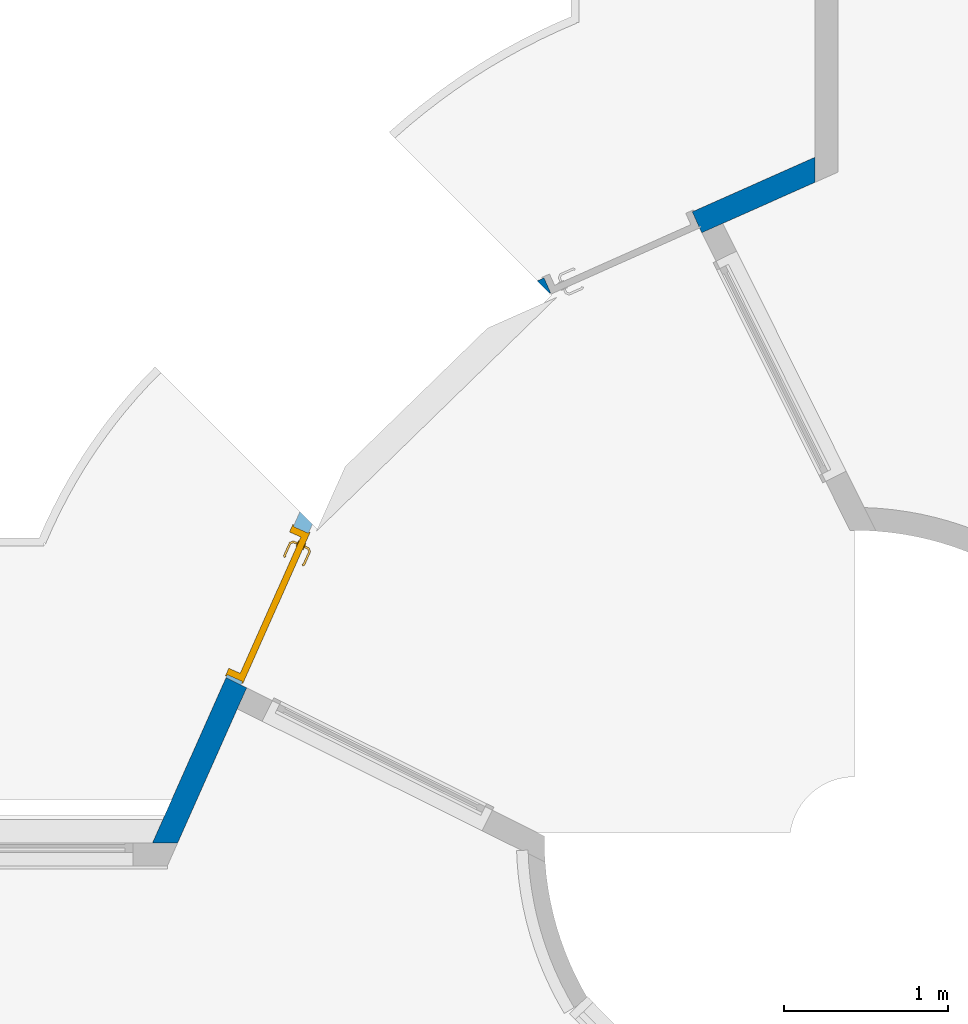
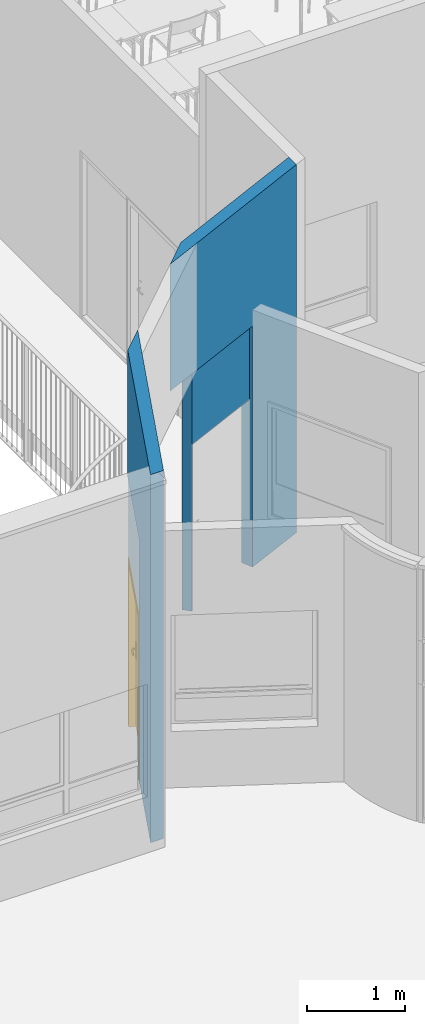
# One storey, part 35 of 44: 3 walls, 1 door, 2 openings, plus 1 element that does not belong to this part.
"""IFC2X3 building model written with IfcOpenShell, lengths in centimetres."""

from ifc_helpers import new_model, entity, si_unit, converted_unit, derived_unit, direction, frame, frame_2d, origin, place, context, subcontext, project, spatial, polyline, rectangle, outline, extrude, faceted_brep, source, transform, mapped, material, material_list, layer, layer_set, layer_usage, type_object, type_shapes, element, fill, save


model = new_model("IFC2X3")

# Units and contexts
model_context = context("Model", 3, precision=0.001, world=origin(), true_north=direction((6.12303176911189e-17, 1.0)))
body_context = subcontext(model_context, "Body", "Model", "MODEL_VIEW")
ifc_project = project(units=[si_unit("LENGTHUNIT", "METRE", prefix="CENTI"), si_unit("AREAUNIT", "SQUARE_METRE"), si_unit("VOLUMEUNIT", "CUBIC_METRE"), converted_unit("PLANEANGLEUNIT", "DEGREE", entity("IfcRatioMeasure", 0.0174532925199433), si_unit("PLANEANGLEUNIT", "RADIAN"), dimensions=[0, 0, 0, 0, 0, 0, 0]), si_unit("MASSUNIT", "GRAM", prefix="KILO"), si_unit("TIMEUNIT", "SECOND"), si_unit("FREQUENCYUNIT", "HERTZ"), si_unit("THERMODYNAMICTEMPERATUREUNIT", "DEGREE_CELSIUS"), derived_unit("THERMALTRANSMITTANCEUNIT", [(si_unit("MASSUNIT", "GRAM", prefix="KILO"), 1), (si_unit("THERMODYNAMICTEMPERATUREUNIT", "KELVIN"), -1), (si_unit("TIMEUNIT", "SECOND"), -3)]), derived_unit("VOLUMETRICFLOWRATEUNIT", [(si_unit("LENGTHUNIT", "METRE"), 3), (si_unit("TIMEUNIT", "SECOND"), -1)]), si_unit("ELECTRICCURRENTUNIT", "AMPERE"), si_unit("ELECTRICVOLTAGEUNIT", "VOLT"), si_unit("POWERUNIT", "WATT"), si_unit("FORCEUNIT", "NEWTON", prefix="KILO"), si_unit("ILLUMINANCEUNIT", "LUX"), si_unit("LUMINOUSFLUXUNIT", "LUMEN"), si_unit("LUMINOUSINTENSITYUNIT", "CANDELA"), derived_unit("USERDEFINED", [(si_unit("MASSUNIT", "GRAM", prefix="KILO"), -1), (si_unit("LENGTHUNIT", "METRE"), -2), (si_unit("TIMEUNIT", "SECOND"), 3), (si_unit("LUMINOUSFLUXUNIT", "LUMEN"), 1)]), derived_unit("LINEARVELOCITYUNIT", [(si_unit("LENGTHUNIT", "METRE"), 1), (si_unit("TIMEUNIT", "SECOND"), -1)]), si_unit("PRESSUREUNIT", "PASCAL"), derived_unit("USERDEFINED", [(si_unit("LENGTHUNIT", "METRE"), -2), (si_unit("MASSUNIT", "GRAM", prefix="KILO"), 1), (si_unit("TIMEUNIT", "SECOND"), -2)])], contexts=[model_context])

# Site, building, storey
site_placement = place(None, frame((8.62739174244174, -249.285249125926, 0.0)))
site = spatial("IfcSite", under=ifc_project, at=site_placement, Name="Default", CompositionType="ELEMENT")
building_placement = place(site_placement, origin())
building = spatial("IfcBuilding", under=site, at=building_placement, CompositionType="ELEMENT")
storey_placement = place(building_placement, frame((0.0, 0.0, 343.0)))
storey = spatial("IfcBuildingStorey", under=building, at=storey_placement, Name="R+1", CompositionType="ELEMENT", Elevation=343.0)

# Walls
ifc_material_1 = material(Name="Tôle/Doublage")
ifc_layer_1 = layer(ifc_material_1, 4.0)
ifc_material_2 = material(Name="Laine minérale")
ifc_layer_2 = layer(ifc_material_2, 8.0)
ifc_material_3 = material(Name="Plâtre")
ifc_layer_3 = layer(ifc_material_3, 2.0)
ifc_layer_set_1 = layer_set([ifc_layer_1, ifc_layer_2, ifc_layer_3], Name="Mur de base:MET 4 + ISO 8 + PLA 2")
wall_type_1 = type_object("IfcWallType", Name="Mur de base:MET 4 + ISO 8 + PLA 2", PredefinedType="STANDARD", material=ifc_layer_set_1)
wall_1_placement = place(storey_placement, frame((3022.83225107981, 1163.87697023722, 0.0), z_axis=(0.0, 0.0, 1.0), x_axis=(-0.913545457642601, -0.406736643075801, 0.0)))
element("IfcWall", 1, at=wall_1_placement, inside=storey, type_object=wall_type_1, Name="Mur de base:MET 4 + ISO 8 + PLA 2", ObjectType="Mur de base:MET 4 + ISO 8 + PLA 2", context=body_context, shape_type="Brep", body=[
    faceted_brep([(187.007537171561, -7.0, 458.0), (0.0, -7.0, 458.0), (0.0, -7.0, 0.0), (82.0137243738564, -7.0, 0.0), (82.0137243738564, -7.0, 207.0), (82.5084399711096, -7.0, 207.0), (82.5084399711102, -7.0, 300.0), (185.553019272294, -7.0, 300.0), (187.007537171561, -7.0, 300.0), (187.007537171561, -7.0, 398.603171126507), (81.9056616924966, 7.0, 0.0), (67.8926912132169, 7.0, 0.0), (6.23320159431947, 7.0, 0.0), (6.23320159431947, 7.0, 458.0), (178.724404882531, 7.0, 458.0), (225.020593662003, 7.0, 458.0), (225.020593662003, 7.0, 300.0), (178.724404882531, 7.0, 300.0), (81.9056616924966, 7.0, 300.0), (82.0137243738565, 4.49015916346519, 0.0), (82.0778840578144, 3.0, 300.0), (82.0778840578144, 3.0, 207.0), (82.0137243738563, 4.49015916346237, 207.0)], [[[0, 1, 2, 3, 4, 5, 6, 7, 8, 9]], [[10, 11, 12, 13, 14, 15, 16, 17, 18]], [[2, 1, 13, 12]], [[12, 11, 10, 19, 3, 2]], [[1, 0, 15, 14, 13]], [[18, 17, 16, 8, 7, 6, 20]], [[10, 18, 20, 6, 5, 21, 22, 19]], [[22, 4, 3, 19]], [[5, 4, 22, 21]], [[8, 16, 15, 0, 9]]]),
])
wall_2_placement = place(storey_placement, frame((2622.17833850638, 749.133051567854, 0.0), z_axis=(0.0, 0.0, 1.0), x_axis=(0.406736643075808, 0.913545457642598, 0.0)))
element("IfcWall", 2, at=wall_2_placement, inside=storey, type_object=wall_type_1, Name="Mur de base:MET 4 + ISO 8 + PLA 2", ObjectType="Mur de base:MET 4 + ISO 8 + PLA 2", context=body_context, shape_type="Brep", body=[
    faceted_brep([(6.23320159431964, -7.0, 0.0), (95.7023370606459, -7.0, 0.0), (109.715307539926, -7.0, 0.0), (109.715307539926, -7.0, 300.0), (214.314644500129, -7.0, 300.0), (257.433376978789, -7.0, 300.0), (257.433376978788, -7.0, 458.0), (214.314644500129, -7.0, 458.0), (6.23320159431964, -7.0, 458.0), (0.0, 7.0, 0.0), (0.0, 7.0, 457.900000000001), (0.0, 7.0, 458.0), (15.5354580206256, 7.0, 458.0), (222.398120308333, 7.0, 458.0), (222.398120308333, 7.0, 300.0), (221.043430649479, 7.0, 300.0), (110.318085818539, 7.0, 300.0), (110.318085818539, 7.0, 0.0), (109.887529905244, -3.0, 0.0), (3.69793010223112, -1.30568699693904, 458.0), (109.887529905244, -3.0, 300.0)], [[[0, 1, 2, 3, 4, 5, 6, 7, 8]], [[9, 10, 11, 12, 13, 14, 15, 16, 17]], [[2, 1, 0, 9, 17, 18]], [[8, 7, 6, 13, 12, 11, 19]], [[5, 4, 3, 20, 16, 15, 14]], [[3, 2, 18, 17, 16, 20]], [[0, 8, 19, 11, 10, 9]], [[5, 14, 13, 6]]]),
])

# Wall, opening
wall_type_2 = type_object("IfcWallType", Name="Mur de base:Int. plâtre 100 mm", PredefinedType="NOTDEFINED")
wall_3_placement = place(storey_placement, frame((2947.03689963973, 1132.31997812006, 0.0), z_axis=(0.0, 0.0, 1.0), x_axis=(-0.913545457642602, -0.406736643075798, 0.0)))
wall_3 = element("IfcWall", 3, at=wall_3_placement, inside=storey, type_object=wall_type_2, material=ifc_material_3, Name="Mur de base:Int. plâtre 100 mm", ObjectType="Mur de base:Int. plâtre 100 mm", context=body_context, shape_type="Brep", body=[
    faceted_brep([(103.47513521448, -5.0, 300.0), (0.430555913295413, -5.0, 300.0), (0.430555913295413, -5.0, 207.0), (98.935840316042, -5.0, 207.0), (98.9358403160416, -5.0, 0.0), (103.47513521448, -5.0, 0.0), (0.0, 5.0, 300.0), (99.6364948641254, 5.0, 300.0), (99.6364948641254, 5.0, 0.0), (98.9358403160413, 5.0, 0.0), (98.9358403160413, 5.0, 207.0), (0.0, 5.0, 207.0)], [[[0, 1, 2, 3, 4, 5]], [[6, 7, 8, 9, 10, 11]], [[8, 5, 4, 9]], [[1, 0, 7, 6]], [[1, 6, 11, 2]], [[0, 5, 8, 7]], [[10, 3, 2, 11]], [[3, 10, 9, 4]]]),
])
opening_1_placement = place(wall_3_placement, frame((-0.0641596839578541, -5.0, 0.0)))
element("IfcOpeningElement", 4, at=opening_1_placement, cuts=wall_3, Name="Simple(R)_bois_Existant_mu:93 x 204 cm:1", ObjectType="Opening", context=body_context, shape_type="SweptSolid", body=[
    extrude(rectangle(XDim=206.999999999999, YDim=98.9999999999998, at=frame_2d((103.499999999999, 49.5), x_axis=(1.0, 0.0))), frame((0.0, 0.0, 0.0), z_axis=(0.0, 1.0, 0.0), x_axis=(0.0, 0.0, 1.0)), (0.0, 0.0, 1.0), 10.0),
])

# Wall, opening, door
ifc_layer_4 = layer(ifc_material_3, 10.0)
ifc_layer_set_2 = layer_set([ifc_layer_4], Name="Mur de base:Int. plâtre 100 mm")
ifc_layer_usage = layer_usage(ifc_layer_set_2, "AXIS2", "NEGATIVE", 5.0)
wall_4_placement = place(storey_placement, frame((2665.04653262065, 850.333778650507, 0.0), z_axis=(0.0, 0.0, 1.0), x_axis=(0.406736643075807, 0.913545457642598, 0.0)))
wall_4 = element("IfcWallStandardCase", 5, at=wall_4_placement, inside=storey, type_object=wall_type_2, material=ifc_layer_usage, Name="Mur de base:Int. plâtre 100 mm", ObjectType="Mur de base:Int. plâtre 100 mm", context=body_context, shape_type="SweptSolid", body=[
    extrude(outline(polyline([(0.0, -5.0), (107.317260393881, -5.0), (111.155900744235, 5.0), (0.430555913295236, 5.0), (0.0, -5.0)])), origin(), (0.0, 0.0, 1.0), 300.0),
])
opening_2_placement = place(wall_4_placement, frame((101.333576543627, 5.0, 0.0)))
opening_2 = element("IfcOpeningElement", 6, at=opening_2_placement, cuts=wall_4, Name="Simple(R)_bois_Existant_mu:93 x 204 cm:1", ObjectType="Opening", context=body_context, shape_type="SweptSolid", body=[
    extrude(rectangle(XDim=206.999999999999, YDim=98.9999999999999, at=frame_2d((103.499999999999, 49.4999999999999), x_axis=(1.0, 0.0))), frame((0.0, 0.0, 0.0), z_axis=(0.0, -1.0, 0.0), x_axis=(0.0, 0.0, 1.0)), (0.0, 0.0, 1.0), 10.0),
])
ifc_material_4 = material(Name="Porte - Poignée")
ifc_material_5 = material(Name="Porte - Cadre")
ifc_material_6 = material(Name="Porte - Panneau")
ifc_material_list_1 = material_list([ifc_material_4, ifc_material_5, ifc_material_6])
ifc_material_list_2 = material_list([ifc_material_4, ifc_material_5, ifc_material_6])
door_style = type_object("IfcDoorStyle", Name="93 x 204 cm", ConstructionType="NOTDEFINED", OperationType="SINGLE_SWING_LEFT", ParameterTakesPrecedence=False, Sizeable=False, material=ifc_material_list_2)
shared_shape = source(origin(), body_context, "Body", "Brep", [
    faceted_brep([(91.7025298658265, 3.69999999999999, 100.778044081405), (91.2974701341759, 3.69999999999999, 100.778044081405), (90.8999999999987, 3.69999999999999, 100.699999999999), (90.9000000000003, 3.69999999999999, 99.3000000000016), (91.2974701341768, 3.69999999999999, 99.2219559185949), (91.7025298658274, 3.69999999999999, 99.2219559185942), (92.1000000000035, 3.69999999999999, 99.2999999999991), (92.1000000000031, 3.69999999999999, 100.699999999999), (90.8999999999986, 5.94852045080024, 100.699999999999), (90.8999999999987, 5.94852045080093, 99.3000000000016), (91.2974701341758, 6.1131579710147, 100.778044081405), (91.7025298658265, 6.2809392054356, 100.778044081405), (90.0838906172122, 7.89957845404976, 100.778044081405), (89.9161093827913, 7.49451872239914, 100.778044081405), (81.5793122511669, 7.49451872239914, 100.778044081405), (81.411531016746, 7.89957845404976, 100.778044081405), (80.6451046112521, 7.13315204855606, 100.778044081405), (80.9315250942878, 6.84673156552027, 100.778044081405), (92.1000000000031, 6.44557672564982, 100.699999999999), (92.1000000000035, 6.44557672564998, 99.2999999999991), (91.7025298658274, 6.28093920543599, 99.2219559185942), (91.2974701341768, 6.11315797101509, 99.2219559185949), (89.9161093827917, 7.49451872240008, 99.2219559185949), (90.0838906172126, 7.8995784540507, 99.2219559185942), (81.4115310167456, 7.8995784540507, 99.2219559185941), (81.5793122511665, 7.49451872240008, 99.2219559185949), (80.9315250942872, 6.84673156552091, 99.2219559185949), (80.6451046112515, 7.1331520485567, 99.2219559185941), (89.7514718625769, 7.09704858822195, 100.699999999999), (89.7514718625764, 7.09704858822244, 99.3000000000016), (90.2485281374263, 8.29704858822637, 100.699999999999), (90.2485281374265, 8.29704858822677, 99.2999999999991), (85.7477108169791, 7.09704858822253, 100.699999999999), (81.7439497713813, 7.09704858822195, 100.699999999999), (81.7439497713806, 7.09704858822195, 99.3000000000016), (85.7477108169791, 7.09704858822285, 99.3000000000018), (85.7477108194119, 7.71249275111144, 100.787811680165), (85.2399422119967, 8.29704858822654, 100.699999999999), (81.2468934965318, 8.29704858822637, 100.699999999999), (86.2554791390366, 8.29704858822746, 99.2999999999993), (81.2468934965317, 8.29704858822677, 99.2999999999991), (85.7477107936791, 7.71249274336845, 99.2121883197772), (80.3640507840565, 7.41420587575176, 100.699999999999), (80.364050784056, 7.41420587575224, 99.2999999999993), (81.2125789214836, 6.56567773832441, 99.3000000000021), (81.2125789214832, 6.56567773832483, 100.699999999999)], [[[0, 1, 2, 3, 4, 5, 6, 7]], [[8, 9, 3, 2]], [[1, 10, 8, 2]], [[1, 0, 11, 12, 13, 10]], [[14, 15, 16, 17]], [[7, 18, 11, 0]], [[18, 7, 6, 19]], [[6, 5, 20, 19]], [[5, 4, 21, 22, 23, 20]], [[24, 25, 26, 27]], [[4, 3, 9, 21]], [[28, 29, 9, 8]], [[8, 10, 13, 28]], [[18, 30, 12, 11]], [[31, 30, 18, 19]], [[19, 20, 23, 31]], [[21, 9, 29, 22]], [[29, 28, 32, 33, 34, 35]], [[36, 32, 13]], [[37, 38, 15]], [[37, 12, 30]], [[36, 12, 37]], [[14, 32, 36]], [[36, 15, 14]], [[28, 13, 32]], [[32, 14, 33]], [[12, 36, 13]], [[15, 36, 37]], [[30, 31, 39, 40, 38, 37]], [[23, 41, 39]], [[24, 39, 41]], [[39, 31, 23]], [[39, 24, 40]], [[22, 35, 41]], [[41, 23, 22]], [[41, 35, 25]], [[35, 22, 29]], [[34, 25, 35]], [[24, 41, 25]], [[17, 16, 42, 43, 27, 26, 44, 45]], [[45, 44, 34, 33]], [[33, 14, 17, 45]], [[15, 38, 42, 16]], [[43, 42, 38, 40]], [[24, 27, 43, 40]], [[34, 44, 26, 25]]]),
    faceted_brep([(91.2974701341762, -1.30000000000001, 100.778044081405), (91.7025298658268, -1.30000000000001, 100.778044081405), (92.1000000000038, -1.30000000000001, 100.699999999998), (92.1000000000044, -1.30000000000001, 99.2999999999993), (91.7025298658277, -1.30000000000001, 99.2219559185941), (91.297470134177, -1.30000000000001, 99.2219559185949), (90.899999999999, -1.30000000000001, 99.3000000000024), (90.8999999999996, -1.30000000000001, 100.699999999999), (91.7025298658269, -3.90045754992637, 100.778044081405), (92.100000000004, -4.06509507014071, 100.699999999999), (91.2974701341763, -3.73267631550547, 100.778044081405), (89.9298602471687, -5.10028620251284, 100.778044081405), (90.0976414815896, -5.50534593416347, 100.778044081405), (81.4142453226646, -5.50534593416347, 100.778044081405), (81.5820265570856, -5.10028620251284, 100.778044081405), (80.9342394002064, -4.4524990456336, 100.778044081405), (80.6478189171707, -4.73891952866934, 100.778044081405), (90.8999999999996, -3.56803879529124, 100.699999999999), (90.899999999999, -3.56803879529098, 99.3000000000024), (91.297470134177, -3.7326763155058, 99.2219559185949), (91.7025298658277, -3.9004575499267, 99.2219559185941), (90.09764148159, -5.50534593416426, 99.2219559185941), (89.9298602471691, -5.10028620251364, 99.2219559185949), (81.5820265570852, -5.10028620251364, 99.2219559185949), (81.4142453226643, -5.50534593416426, 99.2219559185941), (80.6478189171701, -4.73891952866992, 99.2219559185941), (80.9342394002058, -4.45249904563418, 99.2219559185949), (92.1000000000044, -4.06509507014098, 99.2999999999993), (90.2622790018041, -5.90281606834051, 100.699999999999), (89.7652227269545, -4.70281606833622, 100.699999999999), (89.7652227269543, -4.70281606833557, 99.3000000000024), (90.2622790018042, -5.90281606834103, 99.2999999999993), (85.7559433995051, -5.31828027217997, 100.787811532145), (86.2692302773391, -5.90281606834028, 100.699999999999), (81.2496078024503, -5.90281606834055, 100.699999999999), (85.755943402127, -4.70281606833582, 100.699999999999), (81.7466640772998, -4.70281606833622, 100.699999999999), (85.7559436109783, -4.70281606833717, 99.3000000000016), (81.7466640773, -4.70281606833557, 99.3000000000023), (85.7559434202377, -5.31828027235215, 99.2121884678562), (85.2426572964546, -5.90281606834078, 99.2999999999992), (81.24960780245, -5.90281606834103, 99.2999999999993), (81.2152932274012, -4.17144521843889, 99.3000000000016), (80.366765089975, -5.01997335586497, 99.2999999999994), (80.3667650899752, -5.01997335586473, 100.699999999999), (81.2152932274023, -4.17144521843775, 100.699999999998)], [[[0, 1, 2, 3, 4, 5, 6, 7]], [[2, 1, 8, 9]], [[1, 0, 10, 11, 12, 8]], [[13, 14, 15, 16]], [[0, 7, 17, 10]], [[18, 17, 7, 6]], [[5, 19, 18, 6]], [[5, 4, 20, 21, 22, 19]], [[23, 24, 25, 26]], [[3, 27, 20, 4]], [[9, 27, 3, 2]], [[9, 8, 12, 28]], [[10, 17, 29, 11]], [[30, 29, 17, 18]], [[18, 19, 22, 30]], [[20, 27, 31, 21]], [[28, 31, 27, 9]], [[12, 32, 33]], [[13, 33, 32]], [[33, 28, 12]], [[33, 13, 34]], [[11, 35, 32]], [[32, 12, 11]], [[32, 35, 14]], [[35, 11, 29]], [[36, 14, 35]], [[13, 32, 14]], [[29, 30, 37, 38, 36, 35]], [[39, 37, 22]], [[40, 41, 24]], [[40, 21, 31]], [[39, 21, 40]], [[23, 37, 39]], [[39, 24, 23]], [[30, 22, 37]], [[37, 23, 38]], [[21, 39, 22]], [[24, 39, 40]], [[31, 28, 33, 34, 41, 40]], [[42, 26, 25, 43, 44, 16, 15, 45]], [[13, 16, 44, 34]], [[36, 45, 15, 14]], [[42, 45, 36, 38]], [[38, 23, 26, 42]], [[24, 41, 43, 25]], [[44, 43, 41, 34]]]),
    faceted_brep([(91.5000000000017, 3.19999999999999, 86.4641016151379), (92.5352761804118, 3.19999999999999, 86.6003983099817), (93.5000000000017, 3.19999999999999, 87.0), (93.5000000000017, 3.19999999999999, 108.0), (92.5352761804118, 3.19999999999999, 108.399601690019), (91.5000000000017, 3.19999999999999, 108.535898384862), (90.4647238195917, 3.19999999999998, 108.399601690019), (89.5000000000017, 3.19999999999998, 108.0), (89.5000000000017, 3.19999999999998, 87.0), (90.4647238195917, 3.19999999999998, 86.6003983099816), (91.5000000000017, 3.69999999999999, 108.535898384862), (92.5352761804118, 3.69999999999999, 108.399601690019), (93.5000000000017, 3.69999999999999, 108.0), (93.5000000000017, 3.69999999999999, 87.0), (92.5352761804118, 3.69999999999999, 86.6003983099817), (91.5000000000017, 3.69999999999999, 86.4641016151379), (90.4647238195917, 3.69999999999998, 86.6003983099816), (89.5000000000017, 3.69999999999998, 87.0), (89.5000000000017, 3.69999999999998, 108.0), (90.4647238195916, 3.69999999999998, 108.399601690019)], [[[0, 1, 2, 3, 4, 5, 6, 7, 8, 9]], [[10, 11, 12, 13, 14, 15, 16, 17, 18, 19]], [[6, 19, 18, 7]], [[5, 10, 19, 6]], [[4, 11, 10, 5]], [[4, 3, 12, 11]], [[12, 3, 2, 13]], [[1, 14, 13, 2]], [[0, 15, 14, 1]], [[9, 16, 15, 0]], [[9, 8, 17, 16]], [[17, 8, 7, 18]]]),
    faceted_brep([(91.5000000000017, -1.30000000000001, 86.4641016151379), (92.5352761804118, -1.30000000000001, 86.6003983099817), (93.5000000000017, -1.3, 87.0), (93.5000000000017, -1.3, 108.0), (92.5352761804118, -1.30000000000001, 108.399601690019), (91.5000000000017, -1.30000000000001, 108.535898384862), (90.4647238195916, -1.30000000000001, 108.399601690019), (89.5000000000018, -1.30000000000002, 108.0), (89.5000000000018, -1.30000000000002, 87.0), (90.4647238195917, -1.30000000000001, 86.6003983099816), (93.5000000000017, -0.800000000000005, 108.0), (93.5000000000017, -0.800000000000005, 87.0), (92.5352761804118, -0.800000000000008, 86.6003983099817), (91.5000000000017, -0.800000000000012, 86.4641016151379), (90.4647238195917, -0.800000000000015, 86.6003983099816), (89.5000000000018, -0.800000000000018, 87.0), (89.5000000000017, -0.800000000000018, 108.0), (90.4647238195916, -0.800000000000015, 108.399601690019), (91.5000000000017, -0.800000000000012, 108.535898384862), (92.5352761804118, -0.800000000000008, 108.399601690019)], [[[0, 1, 2, 3, 4, 5, 6, 7, 8, 9]], [[10, 11, 12, 13, 14, 15, 16, 17, 18, 19]], [[1, 12, 11, 2]], [[0, 13, 12, 1]], [[9, 14, 13, 0]], [[9, 8, 15, 14]], [[15, 8, 7, 16]], [[6, 17, 16, 7]], [[5, 18, 17, 6]], [[4, 19, 18, 5]], [[4, 3, 10, 19]], [[10, 3, 2, 11]]]),
    faceted_brep([(100.0, 0.0, 0.0), (101.0, 0.0, 0.0), (101.0, -0.799999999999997, 0.0), (97.0, -0.799999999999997, 0.0), (97.0, 3.2, 0.0), (96.0, 3.2, 0.0), (96.0, 10.8000000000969, 0.0), (101.0, 10.8000000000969, 0.0), (101.0, 10.0, 0.0), (100.0, 10.0, 0.0), (100.0, 10.0, 207.0), (100.0, 0.0, 207.0), (101.0, 10.0, 208.0), (0.0, 10.0, 208.0), (0.0, 10.0, 0.0), (1.0, 10.0, 0.0), (1.0, 10.0, 207.0), (101.0, 10.8000000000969, 208.0), (96.0, 10.8000000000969, 203.0), (5.0, 10.8000000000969, 203.0), (5.0, 10.8000000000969, 0.0), (0.0, 10.8000000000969, 0.0), (0.0, 10.8000000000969, 208.0), (96.0, 3.2, 203.0), (97.0, 3.2, 204.0), (4.0, 3.2, 204.0), (4.0, 3.2, 0.0), (5.0, 3.2, 0.0), (5.0, 3.2, 203.0), (97.0, -0.799999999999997, 204.0), (101.0, -0.799999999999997, 208.0), (0.0, -0.799999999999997, 208.0), (0.0, -0.799999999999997, 0.0), (4.0, -0.799999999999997, 0.0), (4.0, -0.799999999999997, 204.0), (101.0, 0.0, 208.0), (1.0, 0.0, 207.0), (1.0, 0.0, 0.0), (0.0, 0.0, 0.0), (0.0, 0.0, 208.0)], [[[0, 1, 2, 3, 4, 5, 6, 7, 8, 9]], [[9, 10, 11, 0]], [[8, 12, 13, 14, 15, 16, 10, 9]], [[7, 17, 12, 8]], [[6, 18, 19, 20, 21, 22, 17, 7]], [[5, 23, 18, 6]], [[4, 24, 25, 26, 27, 28, 23, 5]], [[3, 29, 24, 4]], [[2, 30, 31, 32, 33, 34, 29, 3]], [[1, 35, 30, 2]], [[0, 11, 36, 37, 38, 39, 35, 1]], [[16, 15, 37, 36]], [[37, 15, 14, 21, 20, 27, 26, 33, 32, 38]], [[22, 21, 14, 13]], [[28, 27, 20, 19]], [[34, 33, 26, 25]], [[39, 38, 32, 31]], [[10, 16, 36, 11]], [[17, 22, 13, 12]], [[23, 28, 19, 18]], [[29, 34, 25, 24]], [[35, 39, 31, 30]]]),
    faceted_brep([(97.0, -0.799999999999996, 204.0), (4.0, -0.799999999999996, 204.0), (4.0, -0.799999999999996, 0.0), (97.0, -0.799999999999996, 0.0), (97.0, 3.2, 204.0), (97.0, 3.2, 0.0), (4.0, 3.2, 0.0), (4.0, 3.2, 204.0)], [[[0, 1, 2, 3]], [[4, 5, 6, 7]], [[3, 5, 4, 0]], [[2, 6, 5, 3]], [[1, 7, 6, 2]], [[0, 4, 7, 1]]]),
])
type_shapes(door_style, [shared_shape])
door_placement = place(opening_2_placement, frame((-100.0, -10.0, 0.0)))
door = element("IfcDoor", 7, at=door_placement, inside=storey, type_object=door_style, material=ifc_material_list_1, Name="Simple(R)_bois_Existant_mu:93 x 204 cm", ObjectType="93 x 204 cm", OverallHeight=206.999999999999, OverallWidth=98.9999999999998, context=body_context, shape_type="MappedRepresentation", body=[
    mapped(shared_shape, transform((0.0, 0.0, 0.0), scale=1.0)),
])
fill(opening_2, door)

save(model, "model.ifc")
